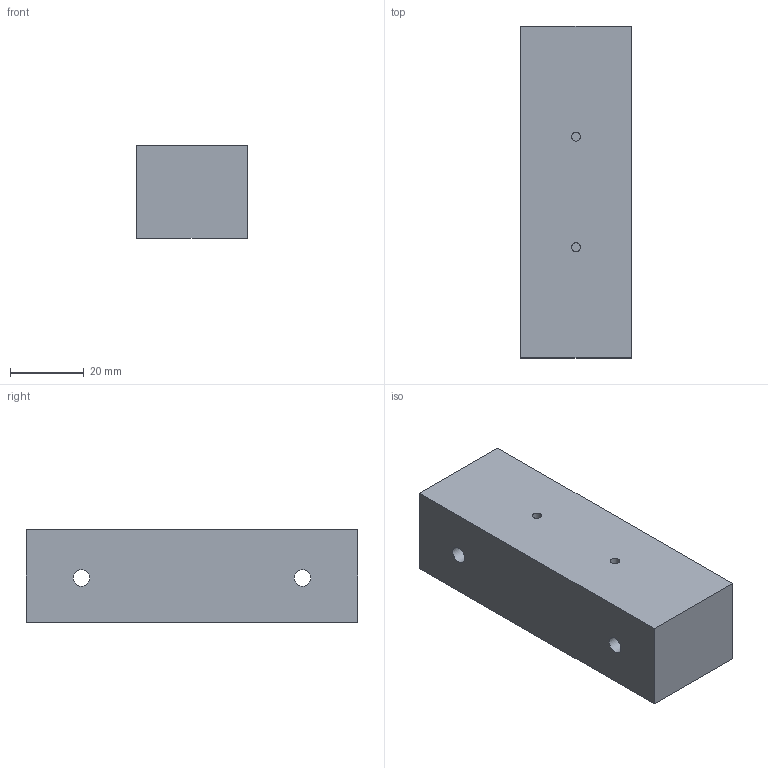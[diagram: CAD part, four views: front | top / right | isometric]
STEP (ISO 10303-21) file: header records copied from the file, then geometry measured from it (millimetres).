
FILE_DESCRIPTION(('Open CASCADE Model'),'2;1');
FILE_NAME('Open CASCADE Shape Model','2026-11-11T10:44:56',('Author'),( 'Open CASCADE'),'Open CASCADE STEP processor 7.9','Open CASCADE 7.9' ,'Unknown');
FILE_SCHEMA(('AUTOMOTIVE_DESIGN { 1 0 10303 214 1 1 1 1 }'));
Length unit declared in the file: millimetre
Products named in the file (1): Open CASCADE STEP translator 7.9 2
Bounding box: 30 x 90 x 25 mm (x, y, z)
Volume: 66319.9 mm3; surface area: 12545.9 mm2
Topology: 1 solids, 1 shells, 12 faces, 24 edges, 16 vertices
Faces by surface type: plane 8, cylinder 4
Full cylindrical faces by diameter (mm): 2.5 x2, 4.5 x2
Entity records: 646 total; most frequent: DIRECTION 106, CARTESIAN_POINT 101, LINE 56, VECTOR 56, ORIENTED_EDGE 48, PCURVE 48, DEFINITIONAL_REPRESENTATION 48, EDGE_CURVE 24
